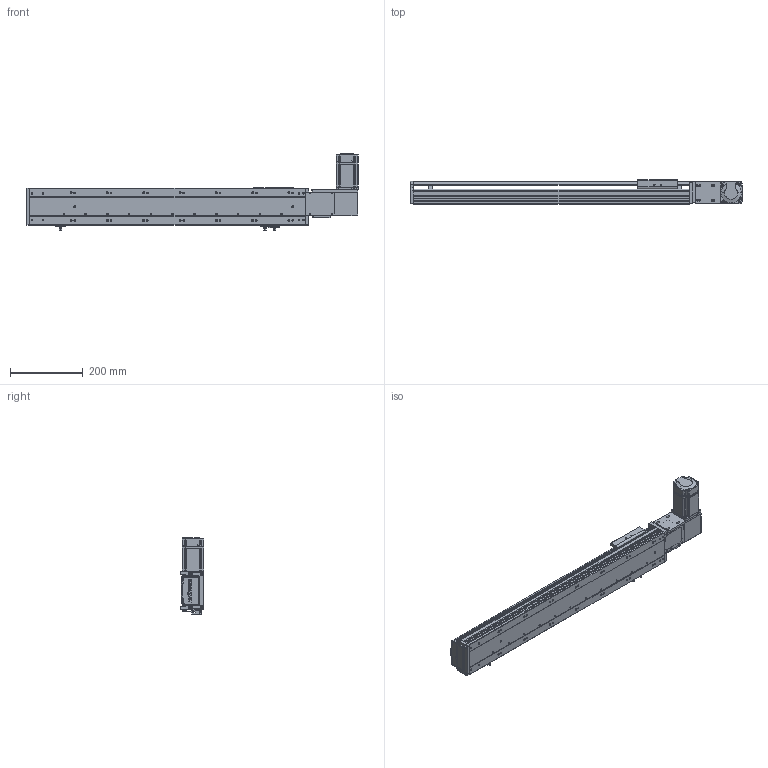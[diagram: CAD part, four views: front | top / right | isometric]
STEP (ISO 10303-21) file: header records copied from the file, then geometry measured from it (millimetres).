
FILE_DESCRIPTION (( 'STEP AP203' ), '1' );
FILE_NAME ('RY100-T-300-RK.SLDASM_550.step', '2024-04-25T08:21:54', ( '盈信电脑' ), ( '东莞市道滘镇水果街19号' ), 'SwSTEP 2.0', 'SolidWorks 2016', '' );
FILE_SCHEMA (( 'CONFIG_CONTROL_DESIGN' ));
Length unit declared in the file: millimetre
Products named in the file (15): RY100-T粣創揤踡裔; RY100-T肮祭謫臏賑輸; 侂狟200W萇儂; RY100-T-300-RK.SLDASM_550; RY100綴裔啣; RY100-T肮祭謫翋盓傅釱; 1; RY100-T左右折电机安装板; 覜茼ん672; 滅袉蝶18-10; RY100-T-300-RK倰第奻裔_550; RY100-T翋肮祭謫裔啣2; RY100俋离覜茼え; RY80-T肮祭謫俋欶; RY100-T-300-RK倰第菁釱_550
Assembly tree (18 placements, depth 3):
  RY100-T-300-RK.SLDASM_550
    RY100-T-300-RK倰第菁釱_550
    RY100-T-300-RK倰第奻裔_550
    RY100-T肮祭謫臏賑輸
    RY100綴裔啣
    覜茼ん672  x3
    RY100俋离覜茼え
    RY100-T肮祭謫翋盓傅釱
    RY100-T左右折电机安装板
    侂狟200W萇儂
      1
    RY100-T粣創揤踡裔
    滅袉蝶18-10  x2
    RY100-T翋肮祭謫裔啣2  x2
    RY80-T肮祭謫俋欶
Bounding box: 914 x 66 x 209.7 mm (x, y, z)
Volume: 1905728.8 mm3; surface area: 759877.4 mm2
Topology: 17 solids, 17 shells, 2167 faces, 6027 edges, 3917 vertices
Faces by surface type: plane 1189, cylinder 769, cone 131, bspline 78
Entity records: 69169 total; most frequent: CARTESIAN_POINT 16743, ORIENTED_EDGE 10790, DIRECTION 10247, EDGE_CURVE 5395, VERTEX_POINT 3553, LINE 3511, VECTOR 3511, AXIS2_PLACEMENT_3D 3368
